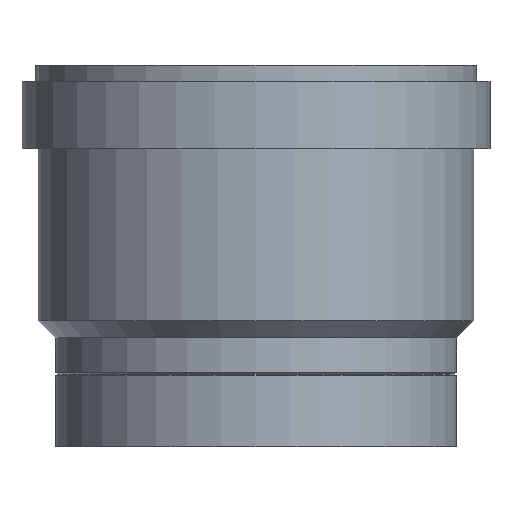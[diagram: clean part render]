
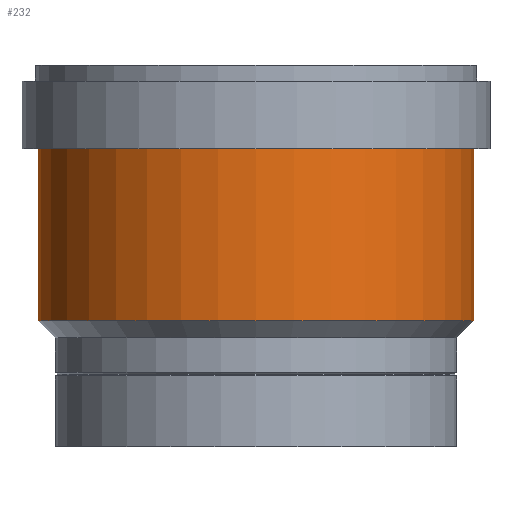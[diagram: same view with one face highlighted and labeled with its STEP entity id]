
A CAD part, front view. The second image highlights one B-rep face of the part: STEP entity #232.
In plain terms, the highlighted cylindrical face has radius 59.95 mm (diameter 119.9 mm), a full revolution.
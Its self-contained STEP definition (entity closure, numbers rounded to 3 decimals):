
#23=CYLINDRICAL_SURFACE('',#281,59.95);
#37=FACE_BOUND('',#84,.T.);
#56=FACE_OUTER_BOUND('',#83,.T.);
#83=EDGE_LOOP('',(#178));
#84=EDGE_LOOP('',(#179));
#114=CIRCLE('',#280,59.95);
#115=CIRCLE('',#282,59.95);
#133=VERTEX_POINT('',#406);
#134=VERTEX_POINT('',#409);
#152=EDGE_CURVE('',#133,#133,#114,.T.);
#153=EDGE_CURVE('',#134,#134,#115,.T.);
#178=ORIENTED_EDGE('',*,*,#152,.T.);
#179=ORIENTED_EDGE('',*,*,#153,.F.);
#232=ADVANCED_FACE('',(#56,#37),#23,.T.);
#280=AXIS2_PLACEMENT_3D('',#407,#337,#338);
#281=AXIS2_PLACEMENT_3D('',#408,#339,#340);
#282=AXIS2_PLACEMENT_3D('',#410,#341,#342);
#337=DIRECTION('center_axis',(0.,0.,-1.));
#338=DIRECTION('ref_axis',(1.,0.,0.));
#339=DIRECTION('center_axis',(0.,0.,-1.));
#340=DIRECTION('ref_axis',(-1.,0.,0.));
#341=DIRECTION('center_axis',(0.,0.,-1.));
#342=DIRECTION('ref_axis',(1.,0.,0.));
#406=CARTESIAN_POINT('',(-59.95,0.,-23.));
#407=CARTESIAN_POINT('Origin',(0.,0.,-23.));
#408=CARTESIAN_POINT('Origin',(0.,0.,-46.625));
#409=CARTESIAN_POINT('',(-59.95,0.,-70.25));
#410=CARTESIAN_POINT('Origin',(0.,0.,-70.25));
